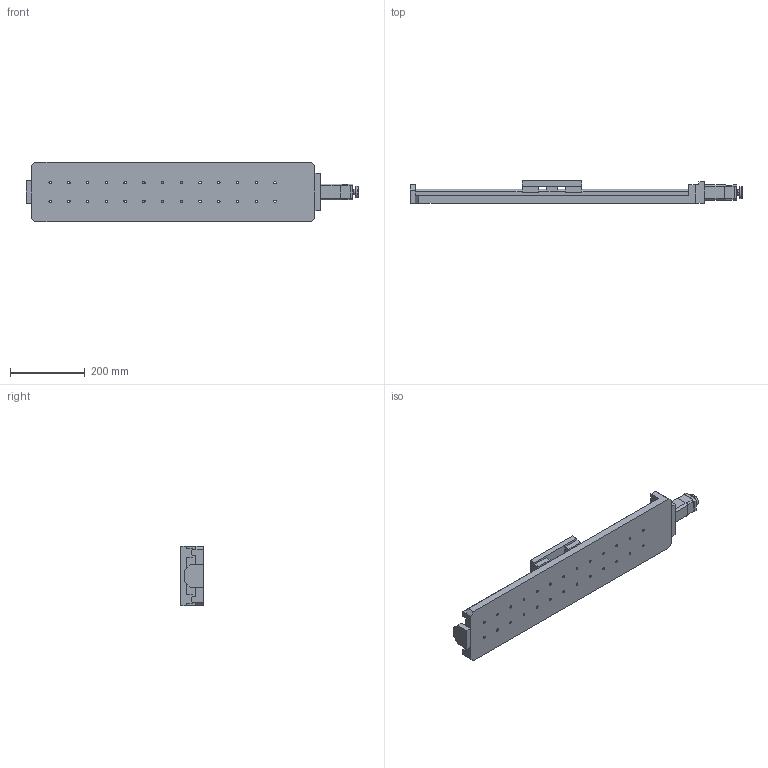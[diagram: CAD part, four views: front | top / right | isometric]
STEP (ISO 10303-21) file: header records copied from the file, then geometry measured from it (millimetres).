
FILE_DESCRIPTION (( 'STEP AP214' ), '1' );
FILE_NAME ('PT-GD140G(400).STEP', '2022-09-18T05:54:39', ( '' ), ( '' ), 'SwSTEP 2.0', 'SolidWorks 2017', '' );
FILE_SCHEMA (( 'AUTOMOTIVE_DESIGN' ));
Length unit declared in the file: millimetre
Products named in the file (3): 萇儂1; PT-GD140G(400); 菁釱
Assembly tree (2 placements, depth 2):
  PT-GD140G(400)
    菁釱
    萇儂1
Bounding box: 886 x 61 x 160 mm (x, y, z)
Volume: 3665670.1 mm3; surface area: 472338 mm2
Topology: 3 solids, 7 shells, 496 faces, 1262 edges, 776 vertices
Faces by surface type: cylinder 220, plane 184, cone 92
Entity records: 16728 total; most frequent: DIRECTION 2727, CARTESIAN_POINT 2599, ORIENTED_EDGE 2444, EDGE_CURVE 1222, AXIS2_PLACEMENT_3D 1008, VERTEX_POINT 776, LINE 711, VECTOR 711
